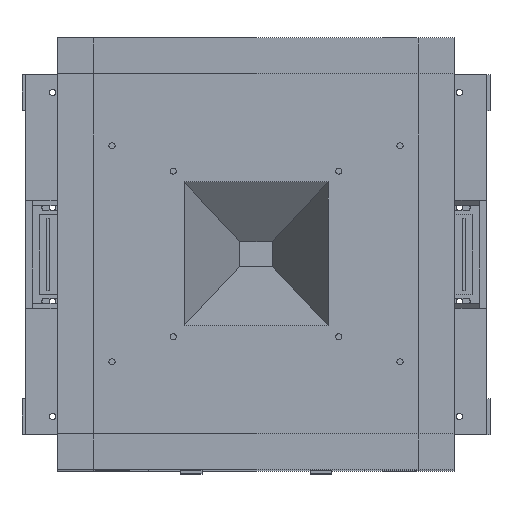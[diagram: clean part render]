
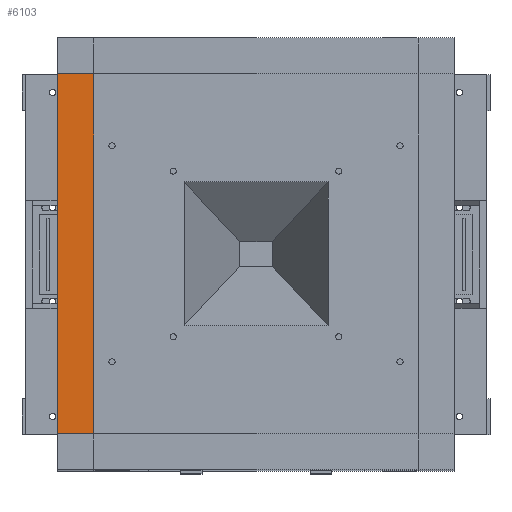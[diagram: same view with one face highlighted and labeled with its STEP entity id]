
A CAD part, top view. The second image highlights one B-rep face of the part: STEP entity #6103.
In plain terms, the highlighted planar face has unit normal (0, 0, 1).
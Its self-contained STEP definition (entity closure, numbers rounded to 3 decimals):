
#5789 = VERTEX_POINT('',#5790);
#5790 = CARTESIAN_POINT('',(0.,20.,460.));
#5797 = PLANE('',#5798);
#5798 = AXIS2_PLACEMENT_3D('',#5799,#5800,#5801);
#5799 = CARTESIAN_POINT('',(0.,20.,440.));
#5800 = DIRECTION('',(1.,0.,0.));
#5801 = DIRECTION('',(0.,0.,1.));
#5809 = PLANE('',#5810);
#5810 = AXIS2_PLACEMENT_3D('',#5811,#5812,#5813);
#5811 = CARTESIAN_POINT('',(0.,20.,440.));
#5812 = DIRECTION('',(0.,1.,0.));
#5813 = DIRECTION('',(0.,0.,1.));
#5850 = VERTEX_POINT('',#5851);
#5851 = CARTESIAN_POINT('',(0.,220.,460.));
#5865 = PLANE('',#5866);
#5866 = AXIS2_PLACEMENT_3D('',#5867,#5868,#5869);
#5867 = CARTESIAN_POINT('',(0.,220.,440.));
#5868 = DIRECTION('',(0.,1.,0.));
#5869 = DIRECTION('',(0.,0.,1.));
#5877 = EDGE_CURVE('',#5789,#5850,#5878,.T.);
#5878 = SURFACE_CURVE('',#5879,(#5883,#5890),.PCURVE_S1.);
#5879 = LINE('',#5880,#5881);
#5880 = CARTESIAN_POINT('',(0.,20.,460.));
#5881 = VECTOR('',#5882,1.);
#5882 = DIRECTION('',(0.,1.,0.));
#5883 = PCURVE('',#5797,#5884);
#5884 = DEFINITIONAL_REPRESENTATION('',(#5885),#5889);
#5885 = LINE('',#5886,#5887);
#5886 = CARTESIAN_POINT('',(20.,0.));
#5887 = VECTOR('',#5888,1.);
#5888 = DIRECTION('',(0.,-1.));
#5889 = ( GEOMETRIC_REPRESENTATION_CONTEXT(2) 
PARAMETRIC_REPRESENTATION_CONTEXT() REPRESENTATION_CONTEXT('2D SPACE',''
  ) );
#5890 = PCURVE('',#5891,#5896);
#5891 = PLANE('',#5892);
#5892 = AXIS2_PLACEMENT_3D('',#5893,#5894,#5895);
#5893 = CARTESIAN_POINT('',(0.,20.,460.));
#5894 = DIRECTION('',(0.,0.,1.));
#5895 = DIRECTION('',(1.,0.,0.));
#5896 = DEFINITIONAL_REPRESENTATION('',(#5897),#5901);
#5897 = LINE('',#5898,#5899);
#5898 = CARTESIAN_POINT('',(0.,0.));
#5899 = VECTOR('',#5900,1.);
#5900 = DIRECTION('',(0.,1.));
#5901 = ( GEOMETRIC_REPRESENTATION_CONTEXT(2) 
PARAMETRIC_REPRESENTATION_CONTEXT() REPRESENTATION_CONTEXT('2D SPACE',''
  ) );
#5909 = VERTEX_POINT('',#5910);
#5910 = CARTESIAN_POINT('',(20.,20.,460.));
#5917 = PLANE('',#5918);
#5918 = AXIS2_PLACEMENT_3D('',#5919,#5920,#5921);
#5919 = CARTESIAN_POINT('',(20.,20.,440.));
#5920 = DIRECTION('',(1.,0.,0.));
#5921 = DIRECTION('',(0.,0.,1.));
#5960 = VERTEX_POINT('',#5961);
#5961 = CARTESIAN_POINT('',(20.,220.,460.));
#5982 = EDGE_CURVE('',#5909,#5960,#5983,.T.);
#5983 = SURFACE_CURVE('',#5984,(#5988,#5995),.PCURVE_S1.);
#5984 = LINE('',#5985,#5986);
#5985 = CARTESIAN_POINT('',(20.,20.,460.));
#5986 = VECTOR('',#5987,1.);
#5987 = DIRECTION('',(0.,1.,0.));
#5988 = PCURVE('',#5917,#5989);
#5989 = DEFINITIONAL_REPRESENTATION('',(#5990),#5994);
#5990 = LINE('',#5991,#5992);
#5991 = CARTESIAN_POINT('',(20.,0.));
#5992 = VECTOR('',#5993,1.);
#5993 = DIRECTION('',(0.,-1.));
#5994 = ( GEOMETRIC_REPRESENTATION_CONTEXT(2) 
PARAMETRIC_REPRESENTATION_CONTEXT() REPRESENTATION_CONTEXT('2D SPACE',''
  ) );
#5995 = PCURVE('',#5891,#5996);
#5996 = DEFINITIONAL_REPRESENTATION('',(#5997),#6001);
#5997 = LINE('',#5998,#5999);
#5998 = CARTESIAN_POINT('',(20.,0.));
#5999 = VECTOR('',#6000,1.);
#6000 = DIRECTION('',(0.,1.));
#6001 = ( GEOMETRIC_REPRESENTATION_CONTEXT(2) 
PARAMETRIC_REPRESENTATION_CONTEXT() REPRESENTATION_CONTEXT('2D SPACE',''
  ) );
#6028 = EDGE_CURVE('',#5789,#5909,#6029,.T.);
#6029 = SURFACE_CURVE('',#6030,(#6034,#6041),.PCURVE_S1.);
#6030 = LINE('',#6031,#6032);
#6031 = CARTESIAN_POINT('',(0.,20.,460.));
#6032 = VECTOR('',#6033,1.);
#6033 = DIRECTION('',(1.,0.,0.));
#6034 = PCURVE('',#5809,#6035);
#6035 = DEFINITIONAL_REPRESENTATION('',(#6036),#6040);
#6036 = LINE('',#6037,#6038);
#6037 = CARTESIAN_POINT('',(20.,0.));
#6038 = VECTOR('',#6039,1.);
#6039 = DIRECTION('',(0.,1.));
#6040 = ( GEOMETRIC_REPRESENTATION_CONTEXT(2) 
PARAMETRIC_REPRESENTATION_CONTEXT() REPRESENTATION_CONTEXT('2D SPACE',''
  ) );
#6041 = PCURVE('',#5891,#6042);
#6042 = DEFINITIONAL_REPRESENTATION('',(#6043),#6047);
#6043 = LINE('',#6044,#6045);
#6044 = CARTESIAN_POINT('',(0.,0.));
#6045 = VECTOR('',#6046,1.);
#6046 = DIRECTION('',(1.,0.));
#6047 = ( GEOMETRIC_REPRESENTATION_CONTEXT(2) 
PARAMETRIC_REPRESENTATION_CONTEXT() REPRESENTATION_CONTEXT('2D SPACE',''
  ) );
#6075 = EDGE_CURVE('',#5850,#5960,#6076,.T.);
#6076 = SURFACE_CURVE('',#6077,(#6081,#6088),.PCURVE_S1.);
#6077 = LINE('',#6078,#6079);
#6078 = CARTESIAN_POINT('',(0.,220.,460.));
#6079 = VECTOR('',#6080,1.);
#6080 = DIRECTION('',(1.,0.,0.));
#6081 = PCURVE('',#5865,#6082);
#6082 = DEFINITIONAL_REPRESENTATION('',(#6083),#6087);
#6083 = LINE('',#6084,#6085);
#6084 = CARTESIAN_POINT('',(20.,0.));
#6085 = VECTOR('',#6086,1.);
#6086 = DIRECTION('',(0.,1.));
#6087 = ( GEOMETRIC_REPRESENTATION_CONTEXT(2) 
PARAMETRIC_REPRESENTATION_CONTEXT() REPRESENTATION_CONTEXT('2D SPACE',''
  ) );
#6088 = PCURVE('',#5891,#6089);
#6089 = DEFINITIONAL_REPRESENTATION('',(#6090),#6094);
#6090 = LINE('',#6091,#6092);
#6091 = CARTESIAN_POINT('',(0.,200.));
#6092 = VECTOR('',#6093,1.);
#6093 = DIRECTION('',(1.,0.));
#6094 = ( GEOMETRIC_REPRESENTATION_CONTEXT(2) 
PARAMETRIC_REPRESENTATION_CONTEXT() REPRESENTATION_CONTEXT('2D SPACE',''
  ) );
#6103 = ADVANCED_FACE('',(#6104),#5891,.T.);
#6104 = FACE_BOUND('',#6105,.T.);
#6105 = EDGE_LOOP('',(#6106,#6107,#6108,#6109));
#6106 = ORIENTED_EDGE('',*,*,#5877,.F.);
#6107 = ORIENTED_EDGE('',*,*,#6028,.T.);
#6108 = ORIENTED_EDGE('',*,*,#5982,.T.);
#6109 = ORIENTED_EDGE('',*,*,#6075,.F.);
